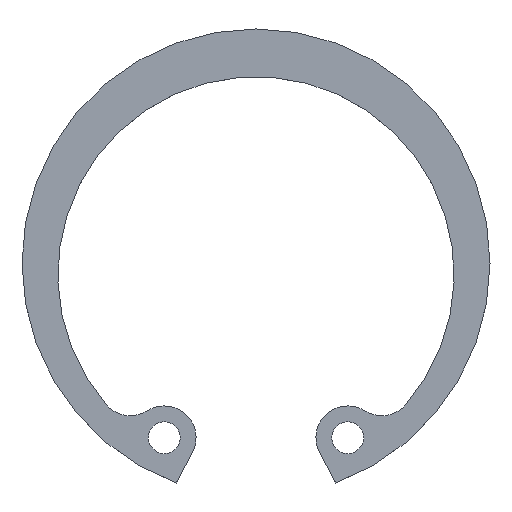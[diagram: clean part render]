
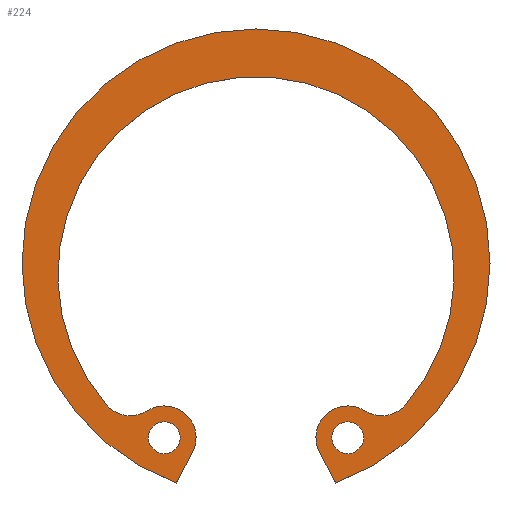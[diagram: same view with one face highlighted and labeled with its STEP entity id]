
A CAD part, top view. The second image highlights one B-rep face of the part: STEP entity #224.
In plain terms, the highlighted planar face has unit normal (0, 0, 1).
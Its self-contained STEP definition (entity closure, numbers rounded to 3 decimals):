
#17=FACE_BOUND('',#49,.T.);
#18=FACE_BOUND('',#50,.T.);
#22=PLANE('',#275);
#34=FACE_OUTER_BOUND('',#48,.T.);
#48=EDGE_LOOP('',(#195,#196,#197,#198,#199,#200,#201,#202));
#49=EDGE_LOOP('',(#203));
#50=EDGE_LOOP('',(#204));
#57=LINE('',#384,#71);
#61=LINE('',#396,#75);
#71=VECTOR('',#316,10.);
#75=VECTOR('',#328,10.);
#80=CIRCLE('',#250,1.);
#82=CIRCLE('',#253,1.);
#83=CIRCLE('',#255,12.45);
#85=CIRCLE('',#258,2.);
#87=CIRCLE('',#261,2.);
#89=CIRCLE('',#265,14.7);
#91=CIRCLE('',#269,2.);
#93=CIRCLE('',#272,2.);
#96=VERTEX_POINT('',#352);
#98=VERTEX_POINT('',#358);
#99=VERTEX_POINT('',#362);
#100=VERTEX_POINT('',#363);
#103=VERTEX_POINT('',#371);
#105=VERTEX_POINT('',#377);
#107=VERTEX_POINT('',#383);
#109=VERTEX_POINT('',#389);
#111=VERTEX_POINT('',#395);
#113=VERTEX_POINT('',#401);
#117=EDGE_CURVE('',#96,#96,#80,.T.);
#120=EDGE_CURVE('',#98,#98,#82,.T.);
#121=EDGE_CURVE('',#99,#100,#83,.T.);
#125=EDGE_CURVE('',#100,#103,#85,.T.);
#128=EDGE_CURVE('',#103,#105,#87,.T.);
#131=EDGE_CURVE('',#105,#107,#57,.T.);
#134=EDGE_CURVE('',#107,#109,#89,.T.);
#137=EDGE_CURVE('',#109,#111,#61,.T.);
#140=EDGE_CURVE('',#111,#113,#91,.T.);
#143=EDGE_CURVE('',#113,#99,#93,.T.);
#195=ORIENTED_EDGE('',*,*,#121,.F.);
#196=ORIENTED_EDGE('',*,*,#143,.F.);
#197=ORIENTED_EDGE('',*,*,#140,.F.);
#198=ORIENTED_EDGE('',*,*,#137,.F.);
#199=ORIENTED_EDGE('',*,*,#134,.F.);
#200=ORIENTED_EDGE('',*,*,#131,.F.);
#201=ORIENTED_EDGE('',*,*,#128,.F.);
#202=ORIENTED_EDGE('',*,*,#125,.F.);
#203=ORIENTED_EDGE('',*,*,#117,.T.);
#204=ORIENTED_EDGE('',*,*,#120,.T.);
#224=ADVANCED_FACE('',(#34,#17,#18),#22,.T.);
#250=AXIS2_PLACEMENT_3D('',#354,#283,#284);
#253=AXIS2_PLACEMENT_3D('',#360,#290,#291);
#255=AXIS2_PLACEMENT_3D('',#364,#294,#295);
#258=AXIS2_PLACEMENT_3D('',#372,#302,#303);
#261=AXIS2_PLACEMENT_3D('',#378,#309,#310);
#265=AXIS2_PLACEMENT_3D('',#390,#321,#322);
#269=AXIS2_PLACEMENT_3D('',#402,#333,#334);
#272=AXIS2_PLACEMENT_3D('',#407,#340,#341);
#275=AXIS2_PLACEMENT_3D('',#410,#346,#347);
#283=DIRECTION('center_axis',(0.,0.,-1.));
#284=DIRECTION('ref_axis',(-1.,0.,0.));
#290=DIRECTION('center_axis',(0.,0.,-1.));
#291=DIRECTION('ref_axis',(-1.,0.,0.));
#294=DIRECTION('center_axis',(0.,0.,1.));
#295=DIRECTION('ref_axis',(-0.756,0.655,0.));
#302=DIRECTION('center_axis',(0.,0.,1.));
#303=DIRECTION('ref_axis',(0.756,0.655,0.));
#309=DIRECTION('center_axis',(0.,0.,-1.));
#310=DIRECTION('ref_axis',(0.885,-0.465,0.));
#316=DIRECTION('',(-0.465,-0.885,0.));
#321=DIRECTION('center_axis',(0.,0.,-1.));
#322=DIRECTION('ref_axis',(0.34,-0.94,0.));
#328=DIRECTION('',(-0.465,0.885,0.));
#333=DIRECTION('center_axis',(0.,0.,-1.));
#334=DIRECTION('ref_axis',(0.533,0.846,0.));
#340=DIRECTION('center_axis',(0.,0.,1.));
#341=DIRECTION('ref_axis',(0.533,0.846,0.));
#346=DIRECTION('center_axis',(0.,0.,1.));
#347=DIRECTION('ref_axis',(1.,0.,0.));
#352=CARTESIAN_POINT('',(6.763,-24.979,1.2));
#354=CARTESIAN_POINT('Origin',(5.763,-24.979,1.2));
#358=CARTESIAN_POINT('',(-4.763,-24.979,1.2));
#360=CARTESIAN_POINT('Origin',(-5.763,-24.979,1.2));
#362=CARTESIAN_POINT('',(9.407,-22.905,1.2));
#363=CARTESIAN_POINT('',(-9.407,-22.905,1.2));
#364=CARTESIAN_POINT('Origin',(0.,-14.75,1.2));
#371=CARTESIAN_POINT('',(-6.83,-23.287,1.2));
#372=CARTESIAN_POINT('Origin',(-7.896,-21.595,1.2));
#377=CARTESIAN_POINT('',(-3.993,-25.909,1.2));
#378=CARTESIAN_POINT('Origin',(-5.763,-24.979,1.2));
#383=CARTESIAN_POINT('',(-4.998,-27.824,1.2));
#384=CARTESIAN_POINT('',(-4.998,-27.824,1.2));
#389=CARTESIAN_POINT('',(4.998,-27.824,1.2));
#390=CARTESIAN_POINT('Origin',(0.,-14.,1.2));
#395=CARTESIAN_POINT('',(3.993,-25.909,1.2));
#396=CARTESIAN_POINT('',(3.993,-25.909,1.2));
#401=CARTESIAN_POINT('',(6.83,-23.287,1.2));
#402=CARTESIAN_POINT('Origin',(5.763,-24.979,1.2));
#407=CARTESIAN_POINT('Origin',(7.896,-21.595,1.2));
#410=CARTESIAN_POINT('Origin',(-0.05,-14.021,1.2));
